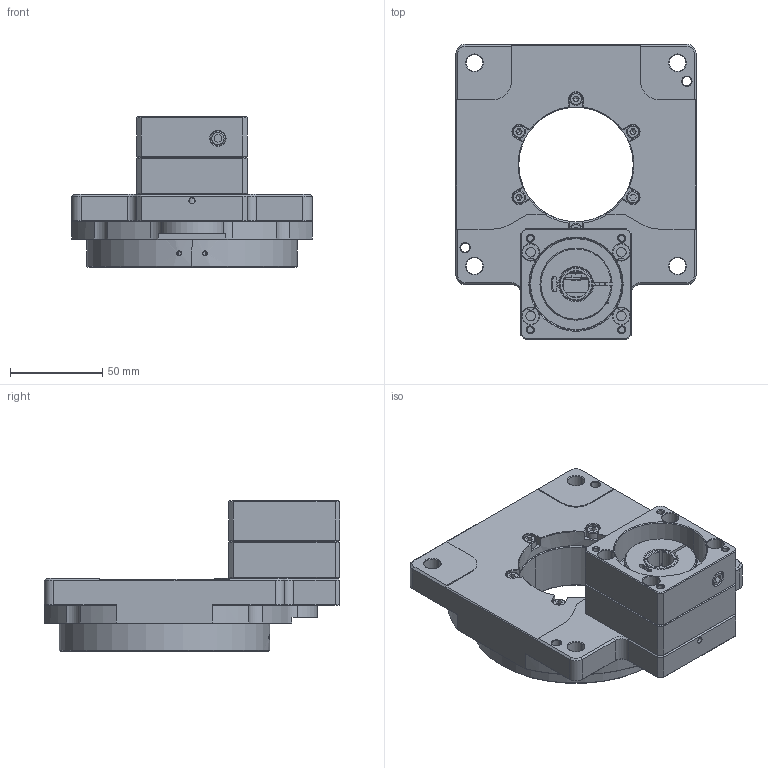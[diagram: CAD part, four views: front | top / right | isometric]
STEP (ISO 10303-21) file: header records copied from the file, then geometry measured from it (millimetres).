
FILE_DESCRIPTION (( 'STEP AP203' ), '1' );
FILE_NAME ('1.STEP', '2022-08-04T06:57:27', ( '' ), ( '' ), 'SwSTEP 2.0', 'SolidWorks 2020', '' );
FILE_SCHEMA (( 'CONFIG_CONTROL_DESIGN' ));
Length unit declared in the file: millimetre
Products named in the file (1): 1
Bounding box: 130 x 159.8 x 81.5 mm (x, y, z)
Surface area: 102257.6 mm2 (no closed solid volume)
Topology: 0 solids, 31 shells, 595 faces, 2099 edges, 1493 vertices
Faces by surface type: plane 230, cone 177, cylinder 162, torus 18, bspline 8
Entity records: 24732 total; most frequent: CARTESIAN_POINT 6885, DIRECTION 3738, ORIENTED_EDGE 3327, EDGE_CURVE 2089, VERTEX_POINT 1493, AXIS2_PLACEMENT_3D 1342, LINE 1054, VECTOR 1054
